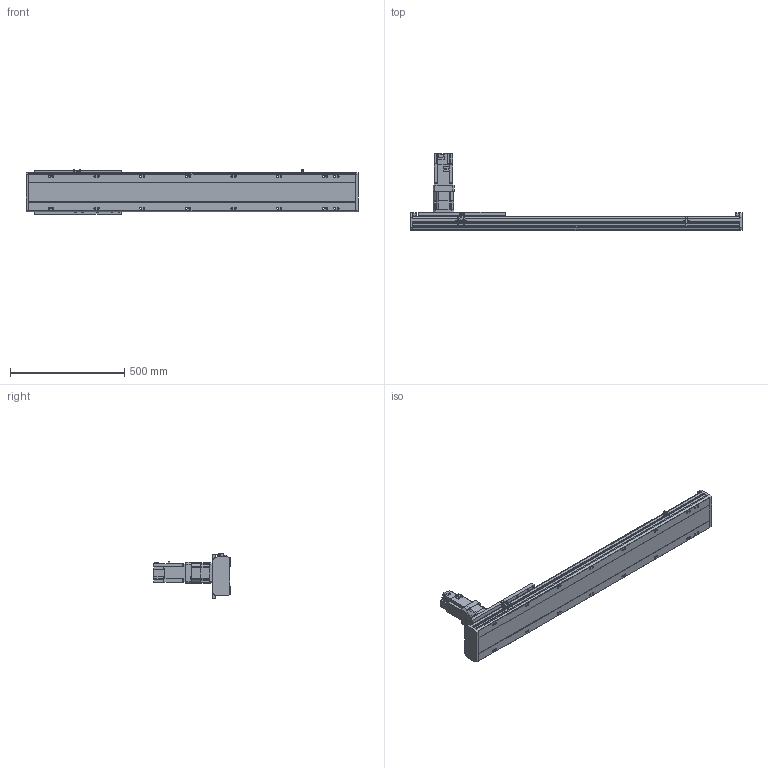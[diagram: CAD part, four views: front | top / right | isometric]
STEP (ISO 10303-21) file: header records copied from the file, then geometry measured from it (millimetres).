
FILE_DESCRIPTION(/* description */ ('STEP AP203'),/* implementation_level */ '2;1');
FILE_NAME(/* name */ 'SHS17A-L13-S1000-BC-T75-C1-N(0)',/* time_stamp */ '2023-03-27T08:57:20+02:00',/* author */ ('License CC BY-ND 4.0'),/* organization */ ('CADENAS'),/* preprocessor_version */ 'ST-DEVELOPER v19.3',/* originating_system */ 'PARTsolutions',/* authorisation */ ' ');
FILE_SCHEMA (('CONFIG_CONTROL_DESIGN'));
Length unit declared in the file: millimetre
Products named in the file (7): SHS17A-L13-S1000-BC-T75-C1-N(0); PSC140-sensor; SHS17A-S1000(0)_body2; T75-p1; SHS17A-S1000_body3; SHS17A-S1000-C1(0)_slider; SHS17A-S1000-C1(0)_body
Assembly tree (13 placements, depth 2):
  SHS17A-L13-S1000-BC-T75-C1-N(0)
    PSC140-sensor  x3
    SHS17A-S1000(0)_body2  x6
    T75-p1
    SHS17A-S1000_body3
    SHS17A-S1000-C1(0)_slider
    SHS17A-S1000-C1(0)_body
Bounding box: 1454 x 333.8 x 193.4 mm (x, y, z)
Volume: 11919572.1 mm3; surface area: 1437429.1 mm2
Topology: 13 solids, 13 shells, 1912 faces, 4831 edges, 3150 vertices
Faces by surface type: plane 1273, cylinder 566, cone 70, torus 3
Full cylindrical faces by diameter (mm): 2.8 x3, 4.134 x24, 4.5 x2, 4.6 x3, 4.917 x15, 5.5 x48, 6 x7, 6.5 x24, 6.647 x24, 6.8 x9, 8 x3, 8.5 x16, 10 x28, 11 x4, 14 x16, 22 x1, 24 x1, 24.2 x1, 28 x1, 28.2 x1, 28.8 x1, 29.8 x1, 48.542 x1, 68 x1, 70 x1, 78 x1, 80 x2
Entity records: 33892 total; most frequent: CARTESIAN_POINT 6328, DIRECTION 5623, ORIENTED_EDGE 5356, EDGE_CURVE 2678, AXIS2_PLACEMENT_3D 1946, VERTEX_POINT 1879, LINE 1731, VECTOR 1731
